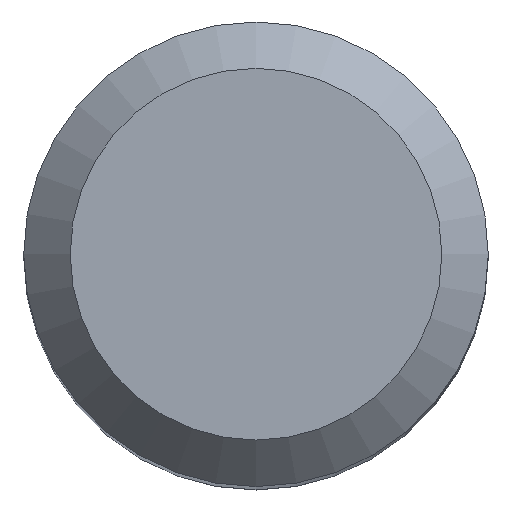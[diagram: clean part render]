
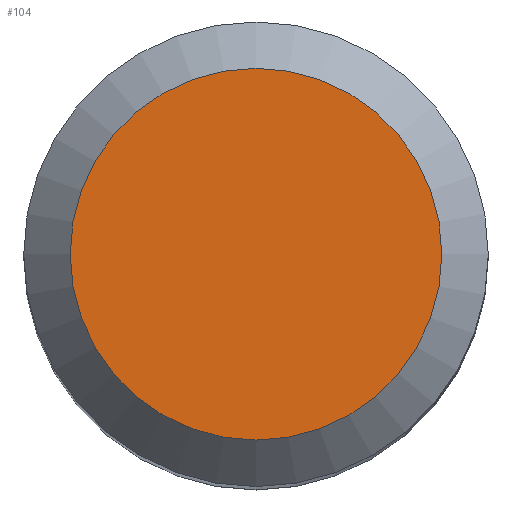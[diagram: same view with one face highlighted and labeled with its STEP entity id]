
A CAD part, top view. The second image highlights one B-rep face of the part: STEP entity #104.
In plain terms, the highlighted planar face has unit normal (0, 0, 1).
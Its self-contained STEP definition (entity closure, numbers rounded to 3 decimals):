
#88=CARTESIAN_POINT('',(4.8,0.0,80.0));
#89=DIRECTION('',(0.0,0.0,1.0));
#90=DIRECTION('',(1.0,0.0,0.0));
#91=AXIS2_PLACEMENT_3D('',#88,#89,#90);
#92=PLANE('',#91);
#93=CARTESIAN_POINT('',(-4.8,0.0,80.0));
#94=VERTEX_POINT('',#93);
#95=CARTESIAN_POINT('',(0.0,0.0,80.0));
#96=DIRECTION('',(0.0,0.0,-1.0));
#97=DIRECTION('',(-1.0,0.0,0.0));
#98=AXIS2_PLACEMENT_3D('',#95,#96,#97);
#99=CIRCLE('',#98,4.8);
#100=EDGE_CURVE('',#94,#94,#99,.T.);
#101=ORIENTED_EDGE('',*,*,#100,.F.);
#102=EDGE_LOOP('',(#101));
#103=FACE_OUTER_BOUND('',#102,.T.);
#104=ADVANCED_FACE('',(#103),#92,.T.);
